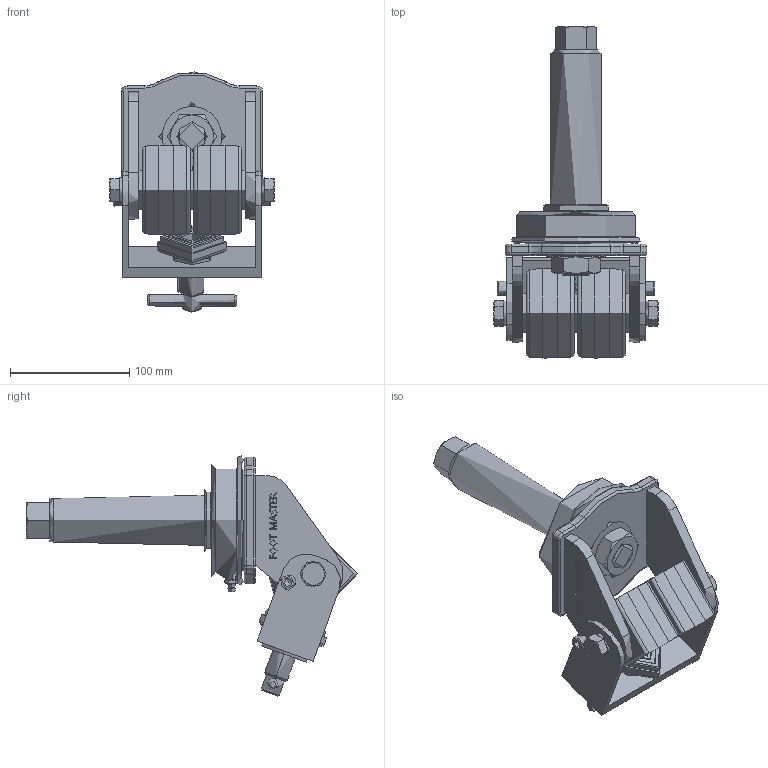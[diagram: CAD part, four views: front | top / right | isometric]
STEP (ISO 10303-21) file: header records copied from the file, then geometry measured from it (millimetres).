
FILE_DESCRIPTION(/* description */ (''),/* implementation_level */ '2;1');
FILE_NAME(/* name */ 'C:\Users\admin\Desktop\업무폴더\일자별 업무\2024\03월\03.08\홈페이지용 3D\3D\GXTT-75-BSS-HUD-PM42x130L.stp',/* time_stamp */ '2024-03-13T17:35:18+09:00',/* author */ ('admin'),/* organization */ (''),/* preprocessor_version */ 'ST-DEVELOPER v18.1',/* originating_system */ 'Autodesk Inventor 2021',/* authorisation */ '');
FILE_SCHEMA (('CONFIG_CONTROL_DESIGN'));
Length unit declared in the file: millimetre
Products named in the file (1): GXTT-75-BSS-HUD-PM42x130L_PART
Bounding box: 138 x 278.5 x 201.72 mm (x, y, z)
Topology: 4 solids, 12 shells, 626 faces, 1508 edges, 965 vertices
Faces by surface type: plane 352, bspline 90, cone 72, cylinder 70, torus 42
Full cylindrical faces by diameter (mm): 1 x1, 6.647 x2, 8 x2, 9 x2, 9.8 x1, 10 x1, 10.2 x1, 11.8 x1, 12 x1, 12.2 x1, 13 x2, 16 x1, 20 x1, 20.6 x2, 21 x1, 24 x1, 32 x1, 33 x3, 36 x1, 40 x1, 42 x2, 50 x1, 54 x2, 58 x1, 60 x1, 75 x2, 85 x1, 100 x1
Entity records: 19795 total; most frequent: CARTESIAN_POINT 5774, ORIENTED_EDGE 3028, DIRECTION 2635, EDGE_CURVE 1514, VERTEX_POINT 965, AXIS2_PLACEMENT_3D 881, LINE 873, VECTOR 873
